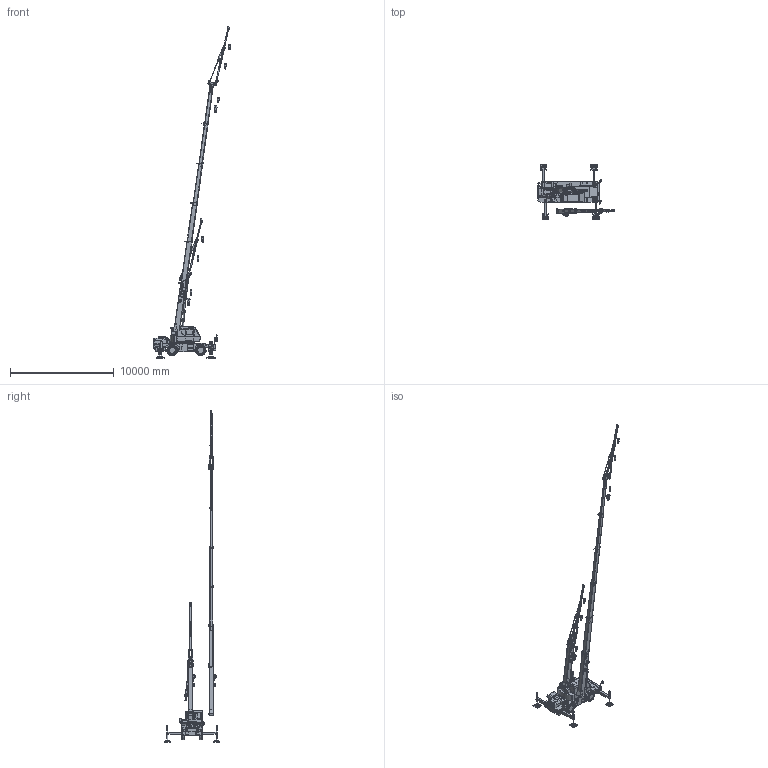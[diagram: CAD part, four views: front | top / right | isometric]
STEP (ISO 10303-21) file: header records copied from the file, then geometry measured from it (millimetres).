
FILE_DESCRIPTION(('CATIA V5 STEP Exchange','CAx-IF Rec.Pracs.--- Model Styling and Organization---1.4--- 2014-01-23'),'2;1');
FILE_NAME('\\Iba001\cad\CR\HP用CADデータ\05A\STP\MR-130Rf 3D.stp','2019-11-28T02:35:53+00:00',('none'),('none'),'CATIA Version 5-6 Release 2017 SP5 HF19','CATIA V5 STEP AP214','none');
FILE_SCHEMA(('AUTOMOTIVE_DESIGN { 1 0 10303 214 1 1 1 1 }'));
Products named in the file (38): MR-130Rf 3D; MR-130Rf UPPER; MR-130Rf UPPER STRUCTURE; MR-130Rf TABLE; MR-130Rf CAB; MR-130Rf MACHINE ROOM; MR-130Rf DERRICK CYLINDER-1; MR-130Rf DERRICK CYLINDER-2; MR-130Rf BOOM JIB Min; MR-130Rf BOOM Min; MR-130Rf BOOM1; MR-130Rf BOOM2; MR-130Rf BOOM3; MR-130Rf BOOM4; MR-130Rf BOOM5; MR-130Rf BOOM6; MR-130Rf JIB; MR-130Rf JIB 3.6m ASSY; MR-130Rf JIB 3.6m; MR-130Rf JIB-CYLINDER ROD+LINK; MR-130Rf JIB-CYLINDER TUBE; MR-130Rf JIB 5.5m ASSY; MR-130Rf JIB 5.5m; MR-130Rf JIB Stowed; MR-130Rf HOOK 1.8t; MR-130Rf HOOK 13t; MR-130Rf BOOM JIB Max; MR-130Rf BOOM Max; MR-130Rf CARRIER H Type; MR-130Rf CHASSIS H Type; MR-130Rf OUTRIGGER; MR-130Rf BEAM F-L; MR-130Rf BEAM H; MR-130Rf SEAT-OUTRIGGER 450x450x70; MR-130Rf SEAT-OUTRIGGER 600X600X20; MR-130Rf BEAM F-R; MR-130Rf BEAM R-L; MR-130Rf BEAM R-R
Assembly tree (61 placements, depth 6):
  MR-130Rf 3D
    MR-130Rf UPPER
      MR-130Rf UPPER STRUCTURE
        MR-130Rf TABLE
        MR-130Rf CAB
        MR-130Rf MACHINE ROOM
        MR-130Rf DERRICK CYLINDER-1
        MR-130Rf DERRICK CYLINDER-2
      MR-130Rf BOOM JIB Min
        MR-130Rf BOOM Min
          MR-130Rf BOOM1
          MR-130Rf BOOM2
          MR-130Rf BOOM3
          MR-130Rf BOOM4
          MR-130Rf BOOM5
          MR-130Rf BOOM6
        MR-130Rf JIB
          MR-130Rf JIB 3.6m ASSY
            MR-130Rf JIB 3.6m
            MR-130Rf JIB-CYLINDER ROD+LINK
            MR-130Rf JIB-CYLINDER TUBE
          MR-130Rf JIB 5.5m ASSY
            MR-130Rf JIB 5.5m
            MR-130Rf JIB-CYLINDER ROD+LINK
            MR-130Rf JIB-CYLINDER TUBE
        MR-130Rf JIB Stowed
        MR-130Rf HOOK 1.8t  x3
        MR-130Rf HOOK 13t
      MR-130Rf BOOM JIB Max
        MR-130Rf BOOM Max
          MR-130Rf BOOM1
          MR-130Rf BOOM2
          MR-130Rf BOOM3
          MR-130Rf BOOM4
          MR-130Rf BOOM5
          MR-130Rf BOOM6
        MR-130Rf JIB
          MR-130Rf JIB 3.6m ASSY
            MR-130Rf JIB 3.6m
            MR-130Rf JIB-CYLINDER ROD+LINK
            MR-130Rf JIB-CYLINDER TUBE
          MR-130Rf JIB 5.5m ASSY
            MR-130Rf JIB 5.5m
            MR-130Rf JIB-CYLINDER ROD+LINK
            MR-130Rf JIB-CYLINDER TUBE
        MR-130Rf HOOK 1.8t  x3
        MR-130Rf HOOK 13t
    MR-130Rf CARRIER H Type
      MR-130Rf CHASSIS H Type
      MR-130Rf OUTRIGGER
        MR-130Rf BEAM F-L
          MR-130Rf BEAM H
          MR-130Rf SEAT-OUTRIGGER 450x450x70
          MR-130Rf SEAT-OUTRIGGER 600X600X20
        MR-130Rf BEAM F-R
          MR-130Rf BEAM H
          MR-130Rf SEAT-OUTRIGGER 450x450x70
          MR-130Rf SEAT-OUTRIGGER 600X600X20
        MR-130Rf BEAM R-L
          MR-130Rf BEAM H
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Bounding box: 7404.37 x 5350 x 31930.21 mm (x, y, z)
Volume: 17856245557.2 mm3; surface area: 237321885.5 mm2
Topology: 116 solids, 117 shells, 8400 faces, 22261 edges, 14447 vertices
Faces by surface type: plane 4612, cylinder 2294, extrusion 623, torus 403, bspline 340, cone 107, revolution 11, sphere 10
Entity records: 161522 total; most frequent: CARTESIAN_POINT 52327, ORIENTED_EDGE 25490, DIRECTION 16667, EDGE_CURVE 12745, VERTEX_POINT 8279, VECTOR 8137, LINE 7753, AXIS2_PLACEMENT_3D 5512
